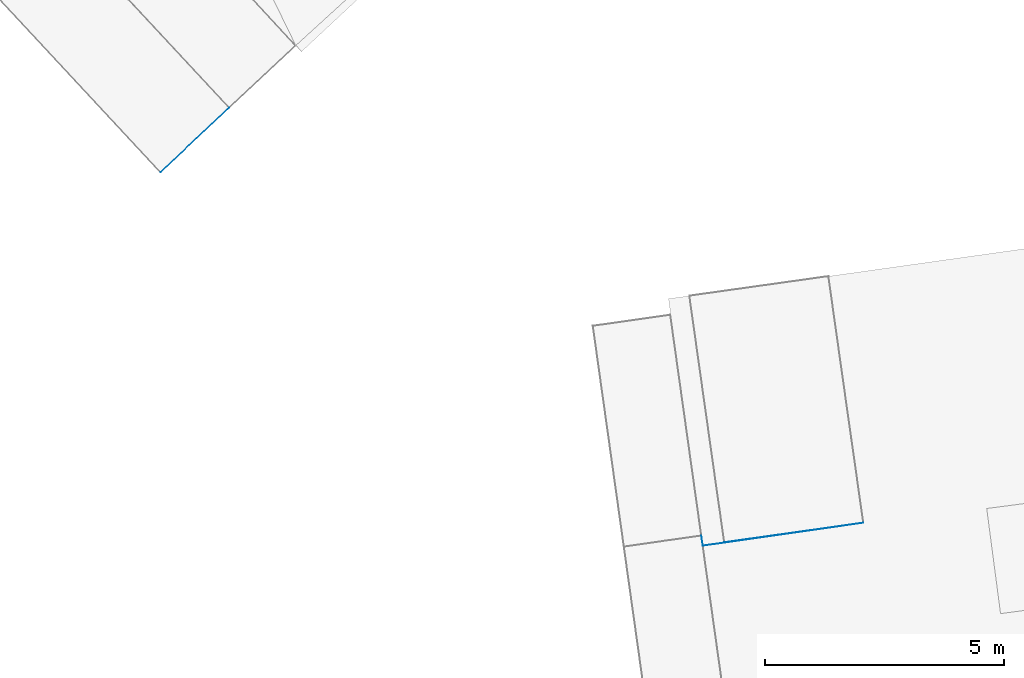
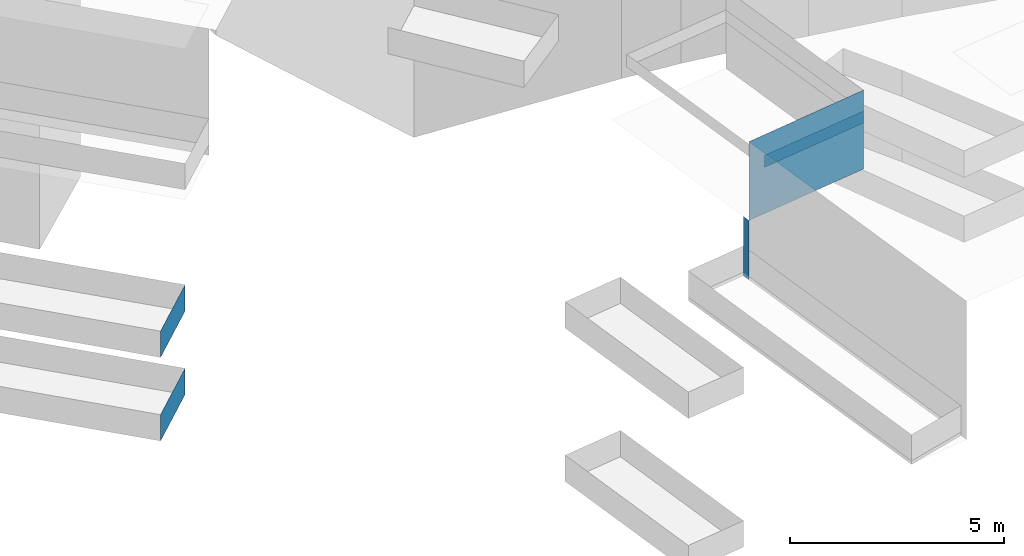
# Not in any storey, part 17 of 136: 8 walls.
"""IFC4 building model written with IfcOpenShell, lengths in metres."""

from ifc_helpers import new_model, entity, si_unit, converted_unit, frame, origin, place, context, subcontext, project, spatial, face_set, surface_model, element, save


model = new_model("IFC4")

# Units and contexts
model_context = context("Model", 3, precision=1e-05, world=origin())
body_context = subcontext(model_context, "Body", "Model", "MODEL_VIEW")
ifc_project = project(units=[converted_unit("PLANEANGLEUNIT", "DEGREE", entity("IfcRatioMeasure", 0.0174532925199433), si_unit("PLANEANGLEUNIT", "RADIAN"), dimensions=[0, 0, 0, 0, 0, 0, 0]), si_unit("AREAUNIT", "SQUARE_METRE"), si_unit("LENGTHUNIT", "METRE")], contexts=[model_context])

# Site, building
site_placement = place(None, origin())
site = spatial("IfcSite", under=ifc_project, at=site_placement, Name="_site")
building_1_placement = place(site_placement, origin())
building_1 = spatial("IfcBuilding", under=site, at=building_1_placement, Name="_building")

# Walls
for number, where, name in (
    (1, (0.0, 0.0, 0.0), "Wall"),
    (2, (0.0, 0.0, 0.0), "Wall"),
):
    element("IfcWall", number, at=place(building_1_placement, frame(where)), inside=building_1, Name=name, PredefinedType="NOTDEFINED", context=body_context, shape_type="SurfaceModel", body=[
        surface_model("IfcFaceBasedSurfaceModel", [(148.62, -47.07, 45.12), (147.18, -48.42, 45.12), (147.18, -48.42, 45.87), (148.62, -47.07, 45.87)], [face_set([[[0, 1, 2, 3]]])]),
    ])
for number, where, name in (
    (3, (0.0, 0.0, 0.0), "Wall"),
    (4, (0.0, 0.0, 0.0), "Wall"),
):
    element("IfcWall", number, at=place(building_1_placement, frame(where)), inside=building_1, Name=name, PredefinedType="NOTDEFINED", context=body_context, shape_type="SurfaceModel", body=[
        surface_model("IfcFaceBasedSurfaceModel", [(148.62, -47.07, 42.74), (147.18, -48.42, 42.74), (147.18, -48.42, 43.49), (148.62, -47.07, 43.49)], [face_set([[[0, 1, 2, 3]]])]),
    ])

# Building
building_2_placement = place(site_placement, origin())
building_2 = spatial("IfcBuilding", under=site, at=building_2_placement, Name="_building")

# Walls
wall_1_placement = place(building_2_placement, origin())
element("IfcWall", 5, at=wall_1_placement, inside=building_2, Name="Wall", PredefinedType="NOTDEFINED", context=body_context, shape_type="SurfaceModel", body=[
    surface_model("IfcFaceBasedSurfaceModel", [(158.53, -56.24, 49.79), (158.5, -56.03, 49.79), (158.5, -56.03, 48.1), (158.53, -56.24, 48.1)], [face_set([[[0, 1, 2, 3]]])]),
])
wall_2_placement = place(building_2_placement, origin())
element("IfcWall", 6, at=wall_2_placement, inside=building_2, Name="Wall", PredefinedType="NOTDEFINED", context=body_context, shape_type="SurfaceModel", body=[
    surface_model("IfcFaceBasedSurfaceModel", [(158.53, -56.24, 52.04), (161.89, -55.76, 52.04), (161.89, -55.76, 49.79), (158.53, -56.24, 49.79)], [face_set([[[0, 1, 2, 3]]])]),
])
for number, where, name in (
    (7, (0.0, 0.0, 0.0), "Wall"),
    (8, (0.0, 0.0, 0.0), "Wall"),
):
    element("IfcWall", number, at=place(building_2_placement, frame(where)), inside=building_2, Name=name, PredefinedType="NOTDEFINED", context=body_context, shape_type="SurfaceModel", body=[
        surface_model("IfcFaceBasedSurfaceModel", [(161.89, -55.76, 51.45), (158.98, -56.17, 51.45), (158.98, -56.17, 51.1), (161.89, -55.76, 51.1)], [face_set([[[0, 1, 2, 3]]])]),
    ])

save(model, "model.ifc")
